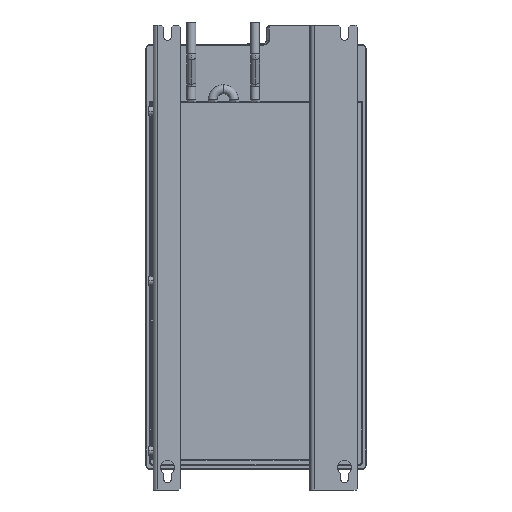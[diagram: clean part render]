
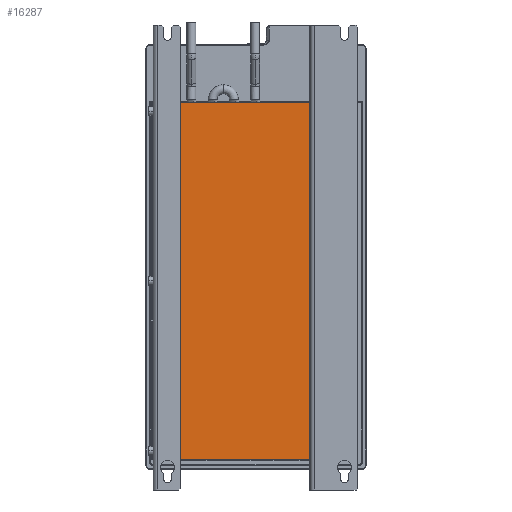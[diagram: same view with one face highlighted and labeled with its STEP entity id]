
A CAD part, front view. The second image highlights one B-rep face of the part: STEP entity #16287.
In plain terms, the highlighted planar face has unit normal (0, -1, 0).
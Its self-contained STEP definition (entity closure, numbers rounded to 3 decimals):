
#3846 = EDGE_LOOP ( 'NONE', ( #73903, #46353, #60225, #61416 ) ) ;
#3917 = VECTOR ( 'NONE', #19999, 1000. ) ;
#6555 = AXIS2_PLACEMENT_3D ( 'NONE', #20504, #65735, #11097 ) ;
#11097 = DIRECTION ( 'NONE',  ( 0., 0., -1. ) ) ;
#16287 = ADVANCED_FACE ( 'NONE', ( #58516 ), #51736, .T. ) ;
#19999 = DIRECTION ( 'NONE',  ( -1., 0., 0. ) ) ;
#20504 = CARTESIAN_POINT ( 'NONE',  ( 89.5, 1., 590.321 ) ) ;
#26268 = LINE ( 'NONE', #99069, #87387 ) ;
#28357 = CARTESIAN_POINT ( 'NONE',  ( 87.5, 1., 0. ) ) ;
#28907 = CARTESIAN_POINT ( 'NONE',  ( 89.5, 1., 403. ) ) ;
#33226 = EDGE_CURVE ( 'NONE', #38847, #60165, #43206, .T. ) ;
#33959 = CARTESIAN_POINT ( 'NONE',  ( -87.5, 1., 0. ) ) ;
#37770 = VECTOR ( 'NONE', #74897, 1000. ) ;
#38847 = VERTEX_POINT ( 'NONE', #39072 ) ;
#39072 = CARTESIAN_POINT ( 'NONE',  ( 87.5, 1., 403. ) ) ;
#43206 = LINE ( 'NONE', #66552, #37770 ) ;
#44508 = CARTESIAN_POINT ( 'NONE',  ( 89.5, 1., 0. ) ) ;
#46353 = ORIENTED_EDGE ( 'NONE', *, *, #69523, .T. ) ;
#46919 = VERTEX_POINT ( 'NONE', #33959 ) ;
#51736 = PLANE ( 'NONE',  #6555 ) ;
#53239 = EDGE_CURVE ( 'NONE', #54587, #38847, #54680, .T. ) ;
#53248 = VECTOR ( 'NONE', #60571, 1000. ) ;
#54587 = VERTEX_POINT ( 'NONE', #63984 ) ;
#54680 = LINE ( 'NONE', #28907, #53248 ) ;
#58516 = FACE_OUTER_BOUND ( 'NONE', #3846, .T. ) ;
#60165 = VERTEX_POINT ( 'NONE', #28357 ) ;
#60225 = ORIENTED_EDGE ( 'NONE', *, *, #89920, .F. ) ;
#60571 = DIRECTION ( 'NONE',  ( 1., 0., 0. ) ) ;
#61416 = ORIENTED_EDGE ( 'NONE', *, *, #33226, .F. ) ;
#63984 = CARTESIAN_POINT ( 'NONE',  ( -87.5, 1., 403. ) ) ;
#65735 = DIRECTION ( 'NONE',  ( 0., -1., 0. ) ) ;
#66552 = CARTESIAN_POINT ( 'NONE',  ( 87.5, 1., 405.9 ) ) ;
#67318 = LINE ( 'NONE', #44508, #3917 ) ;
#69523 = EDGE_CURVE ( 'NONE', #54587, #46919, #26268, .T. ) ;
#73903 = ORIENTED_EDGE ( 'NONE', *, *, #53239, .F. ) ;
#74897 = DIRECTION ( 'NONE',  ( 0., 0., -1. ) ) ;
#87387 = VECTOR ( 'NONE', #89749, 1000. ) ;
#89749 = DIRECTION ( 'NONE',  ( 0., 0., -1. ) ) ;
#89920 = EDGE_CURVE ( 'NONE', #60165, #46919, #67318, .T. ) ;
#99069 = CARTESIAN_POINT ( 'NONE',  ( -87.5, 1., 405.9 ) ) ;
